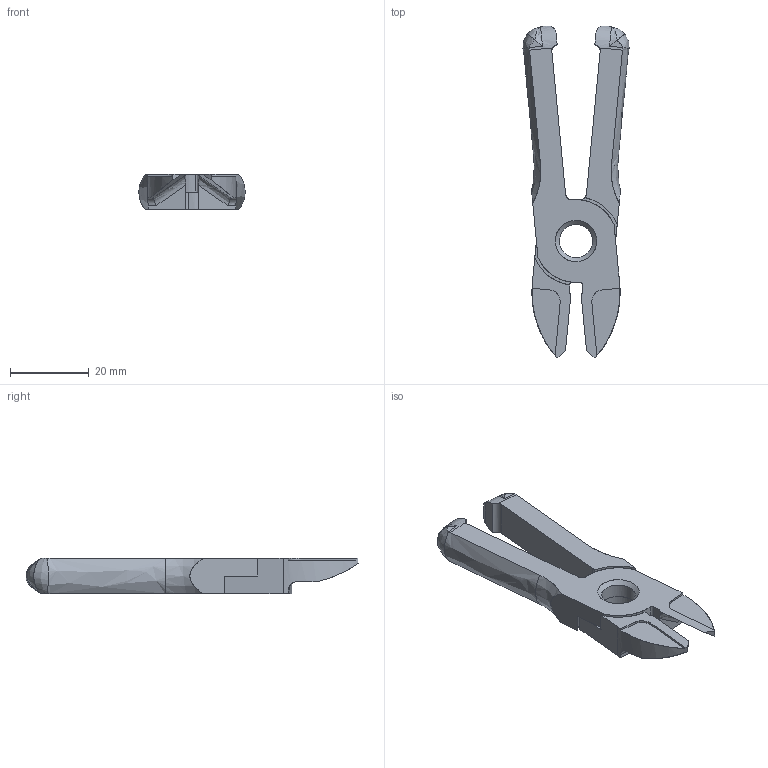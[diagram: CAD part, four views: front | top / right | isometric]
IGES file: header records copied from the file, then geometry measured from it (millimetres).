
Global section: file name: \\Kikaku_server01\kikaku\; native system: Rhinoceros ( Feb 22 2008 ); preprocessor: Trout Lake IGES 012 Feb 22 2008; date: 081001.040721; units: millimetre
Bounding box: 26.96 x 84.24 x 9 mm (x, y, z)
Surface area: 6049.8 mm2 (no closed solid volume)
Topology: 0 solids, 0 shells, 84 faces, 673 edges, 669 vertices
Faces by surface type: bspline 84
